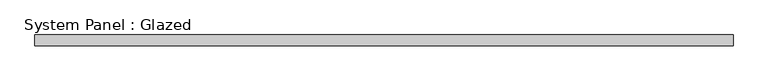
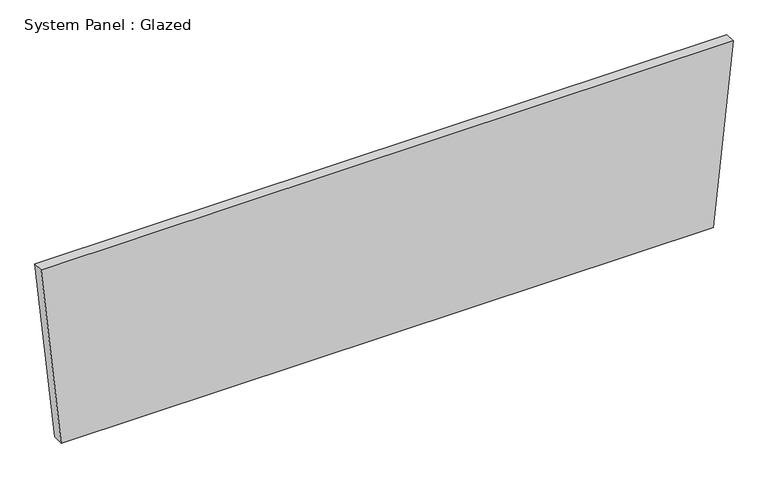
"""IFC4 building model written with IfcOpenShell, lengths in millimetres: plate geometry, System Panel : Glazed."""

import ifcopenshell
import ifcopenshell.guid

model = None  # the IFC model being written
_history = None  # IfcOwnerHistory: only IFC2X3 demands one
_inside = {}  # id of a spatial element -> (the spatial element, [elements in it])
_under = {}  # id of a project, library or spatial element -> (it, [spatial elements below it])
_declared = {}  # id of a project -> (the project, [libraries it declares])
_typed = {}  # id of a type object -> (the type object, [elements of that type])
_made_of = {}  # id of a material, layer set ... -> (it, [elements and type objects made of it])


def new_model(schema):
    """Start an empty IFC model of exactly this schema.

    Asked for "IFC4X3", IfcOpenShell would pick the latest addendum, in which some entities
    have other attributes; the version numbers below select the first issue.
    IFC2X3 requires an IfcOwnerHistory on every rooted entity: one is made here for all.
    """
    global model, _history
    if schema == "IFC4X3":
        model = ifcopenshell.file(schema_version=(4, 3, 0, 0))
    else:
        model = ifcopenshell.file(schema=schema)
    _inside.clear()
    _under.clear()
    _declared.clear()
    _typed.clear()
    _made_of.clear()
    _history = None
    if model.schema == "IFC2X3":
        org = make("IfcOrganization", Name="unknown")
        user = make(
            "IfcPersonAndOrganization",
            ThePerson=make("IfcPerson", FamilyName="unknown"),
            TheOrganization=org,
        )
        app = make(
            "IfcApplication",
            ApplicationDeveloper=org,
            Version="unknown",
            ApplicationFullName="unknown",
            ApplicationIdentifier="unknown",
        )
        _history = make(
            "IfcOwnerHistory",
            OwningUser=user,
            OwningApplication=app,
            ChangeAction="ADDED",
            CreationDate=0,
        )
    return model


def make(cls, **values):
    """One entity of the class cls with the attributes given. An attribute that is None is left unset."""
    return model.create_entity(
        cls, **{name: value for name, value in values.items() if value is not None}
    )


def rooted(cls, **values):
    """An entity with a GlobalId (a new one), such as an element, a storey or a relation."""
    return make(cls, GlobalId=ifcopenshell.guid.new(), OwnerHistory=_history, **values)


def si_unit(unit_type, name, prefix=None):
    """IfcSIUnit, for example si_unit("LENGTHUNIT", "METRE", prefix="MILLI")."""
    return make("IfcSIUnit", UnitType=unit_type, Prefix=prefix, Name=name)


def assignment(units):
    """IfcUnitAssignment: the units of a project."""
    return None if units is None else make("IfcUnitAssignment", Units=units)


def point(xyz):
    """IfcCartesianPoint."""
    return None if xyz is None else make("IfcCartesianPoint", Coordinates=xyz)


def direction(xyz):
    """IfcDirection."""
    return None if xyz is None else make("IfcDirection", DirectionRatios=xyz)


def frame(location, z_axis=None, x_axis=None):
    """IfcAxis2Placement3D, a coordinate frame: its origin and axes. An axis left out is left unset."""
    return make(
        "IfcAxis2Placement3D",
        Location=point(location),
        Axis=direction(z_axis),
        RefDirection=direction(x_axis),
    )


def origin():
    """The frame at (0, 0, 0) with its axes left unset."""
    return frame((0.0, 0.0, 0.0))


def place(relative_to, where):
    """IfcLocalPlacement: puts the frame where relative to a parent placement (None: the world)."""
    return make(
        "IfcLocalPlacement", PlacementRelTo=relative_to, RelativePlacement=where
    )


def context(
    kind, dimensions, precision=None, world=None, true_north=None, identifier=None
):
    """IfcGeometricRepresentationContext, for example the 3D "Model" context."""
    return make(
        "IfcGeometricRepresentationContext",
        ContextIdentifier=identifier,
        ContextType=kind,
        CoordinateSpaceDimension=dimensions,
        Precision=precision,
        WorldCoordinateSystem=world,
        TrueNorth=true_north,
    )


def project(units=None, contexts=None):
    """IfcProject with its units and contexts."""
    return rooted(
        "IfcProject",
        Name="project",
        RepresentationContexts=contexts,
        UnitsInContext=assignment(units),
    )


def spatial(cls, under=None, at=None, **own):
    """A site, building, storey or space (cls), placed at a placement, below another one or the project."""
    s = rooted(cls, ObjectPlacement=at, **own)
    if under is not None:
        _under.setdefault(under.id(), (under, []))[1].append(s)
    return s


def polyline(points):
    """IfcPolyline through the points."""
    return make("IfcPolyline", Points=[point(p) for p in points])


def outline(outer, holes=None, kind="AREA"):
    """IfcArbitraryClosedProfileDef: a profile drawn as a closed curve; with holes, ...WithVoids."""
    if holes is None:
        return make("IfcArbitraryClosedProfileDef", ProfileType=kind, OuterCurve=outer)
    return make(
        "IfcArbitraryProfileDefWithVoids",
        ProfileType=kind,
        OuterCurve=outer,
        InnerCurves=holes,
    )


def extrude(swept, where, along, depth):
    """IfcExtrudedAreaSolid: the profile swept, set in the frame where, extruded along a direction by depth."""
    return make(
        "IfcExtrudedAreaSolid",
        SweptArea=swept,
        Position=where,
        ExtrudedDirection=direction(along),
        Depth=depth,
    )


def shape(context_of_items, identifier, shape_type, items):
    """IfcShapeRepresentation: the items that make up one representation, for example the "Body"."""
    return make(
        "IfcShapeRepresentation",
        ContextOfItems=context_of_items,
        RepresentationIdentifier=identifier,
        RepresentationType=shape_type,
        Items=items,
    )


def source(mapping_origin, context_of_items, identifier, shape_type, items):
    """IfcRepresentationMap: a shape defined once, which mapped items show again and again."""
    return make(
        "IfcRepresentationMap",
        MappingOrigin=mapping_origin,
        MappedRepresentation=shape(context_of_items, identifier, shape_type, items),
    )


def transform(
    local_origin,
    x_axis=None,
    y_axis=None,
    z_axis=None,
    scale=None,
    scale2=None,
    scale3=None,
    uniform=True,
):
    """IfcCartesianTransformationOperator3D, or its non-uniform kind. x_axis, y_axis, z_axis: its Axis1, 2, 3."""
    if uniform:
        return make(
            "IfcCartesianTransformationOperator3D",
            Axis1=direction(x_axis),
            Axis2=direction(y_axis),
            LocalOrigin=point(local_origin),
            Scale=scale,
            Axis3=direction(z_axis),
        )
    return make(
        "IfcCartesianTransformationOperator3DnonUniform",
        Axis1=direction(x_axis),
        Axis2=direction(y_axis),
        LocalOrigin=point(local_origin),
        Scale=scale,
        Axis3=direction(z_axis),
        Scale2=scale2,
        Scale3=scale3,
    )


def mapped(mapping_source, mapping_target):
    """IfcMappedItem: shows the shape of a source again, moved by a transform."""
    return make(
        "IfcMappedItem", MappingSource=mapping_source, MappingTarget=mapping_target
    )


def made_of(thing, what):
    """Note that an element or type object is made of a material, layer set ...; save() writes the relation."""
    if what is not None:
        _made_of.setdefault(what.id(), (what, []))[1].append(thing)
    return thing


def element(
    cls,
    number,
    at=None,
    inside=None,
    cuts=None,
    type_object=None,
    material=None,
    context=None,
    identifier="Body",
    shape_type=None,
    held_by="IfcProductDefinitionShape",
    body=None,
    shapes=None,
    **own,
):
    """One element of the class cls, such as IfcWall. Its Tag is "e" and its number.

    at: its placement. inside: the storey or other place that contains it. cuts: it is an
    opening in that element (IfcRelVoidsElement). A single representation is given by context,
    identifier, shape_type and body (its items); several are given by shapes. held_by: the class
    of the entity that holds the representations. save() writes the other relations.
    """
    e = rooted(cls, Tag="e%d" % number, ObjectPlacement=at, **own)
    if body is not None:
        shapes = [shape(context, identifier, shape_type, body)]
    if shapes is not None:
        e.Representation = make(held_by, Representations=shapes)
    if inside is not None:
        _inside.setdefault(inside.id(), (inside, []))[1].append(e)
    if cuts is not None:
        rooted(
            "IfcRelVoidsElement", RelatingBuildingElement=cuts, RelatedOpeningElement=e
        )
    if type_object is not None:
        _typed.setdefault(type_object.id(), (type_object, []))[1].append(e)
    return made_of(e, material)


def aggregate(whole, parts):
    """IfcRelAggregates: a whole, such as a stair, and the parts it consists of."""
    return rooted("IfcRelAggregates", RelatingObject=whole, RelatedObjects=parts)


def save(model, path):
    """Write the relations noted so far, then the file.

    IfcRelAggregates (storeys below a building ...), IfcRelContainedInSpatialStructure (elements
    in a storey), IfcRelDefinesByType, IfcRelAssociatesMaterial and IfcRelDeclares: one each for
    every whole, place, type object, material and project.
    """
    for whole, parts in _under.values():
        aggregate(whole, parts)
    for where, things in _inside.values():
        rooted(
            "IfcRelContainedInSpatialStructure",
            RelatedElements=things,
            RelatingStructure=where,
        )
    for kind, things in _typed.values():
        rooted("IfcRelDefinesByType", RelatedObjects=things, RelatingType=kind)
    for what, things in _made_of.values():
        rooted("IfcRelAssociatesMaterial", RelatedObjects=things, RelatingMaterial=what)
    for by, libraries in _declared.values():
        rooted("IfcRelDeclares", RelatingContext=by, RelatedDefinitions=libraries)
    model.write(path)


def system_panel_glazed_a2d5a43f(model_context):
    return source(origin(), model_context, "Body", "SweptSolid", [
        extrude(outline(polyline([(0.0, -781.1125719), (0.0, 781.1125719), (455.8848707, 829.0464249), (455.8848707, -829.0464249), (0.0, -781.1125719)])), frame((0.0, 19.05, 0.0), z_axis=(0.0, 1.0, 0.0), x_axis=(0.0, 0.0, 1.0)), (0.0, 0.0, 1.0), 25.4),
    ])


if __name__ == "__main__":
    model = new_model("IFC4")
    model_context = context("Model", 3, world=origin())
    ifc_project = project(units=[si_unit("LENGTHUNIT", "METRE", prefix="MILLI")], contexts=[model_context])
    site = spatial("IfcSite", under=ifc_project)
    building = spatial("IfcBuilding", under=site)
    placement = place(None, origin())
    system_panel_glazed_shape = system_panel_glazed_a2d5a43f(model_context)
    element("IfcPlate", 1, ObjectType="System Panel : Glazed", at=placement, inside=building, context=model_context, shape_type="MappedRepresentation", body=[
        mapped(system_panel_glazed_shape, transform((0.0, 0.0, 0.0), x_axis=(1.0, 0.0, 0.0), y_axis=(0.0, 1.0, 0.0), z_axis=(0.0, 0.0, 1.0))),
    ])
    save(model, "model.ifc")
